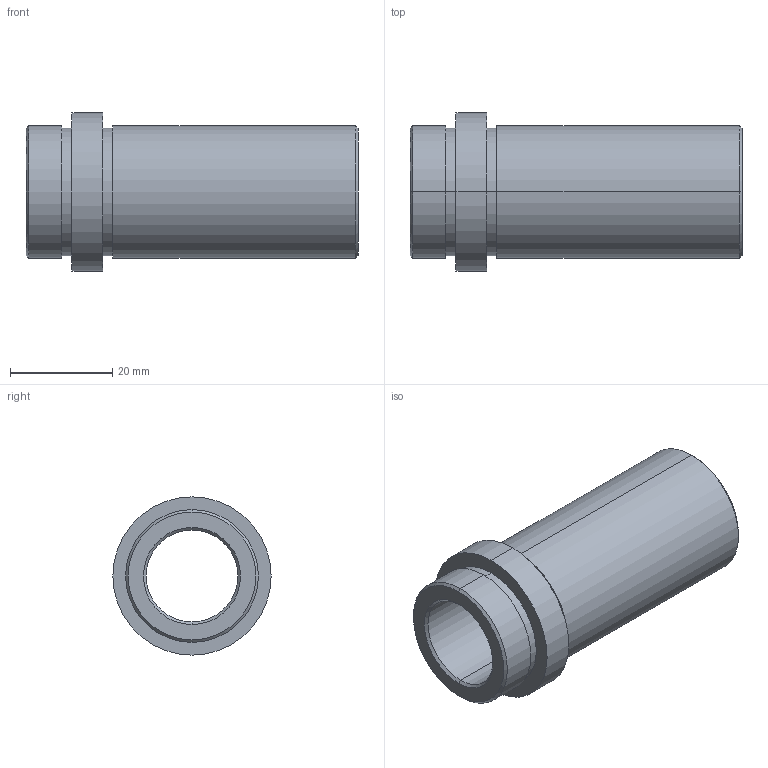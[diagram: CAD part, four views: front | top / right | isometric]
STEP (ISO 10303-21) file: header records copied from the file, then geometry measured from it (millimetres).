
FILE_DESCRIPTION (( 'STEP AP214' ), '1' );
FILE_NAME ('D21_18x56.step', '2011-12-28T19:44:20', ( 'Dell' ), ( '' ), 'SwSTEP 2.0', 'SolidWorks 2010', '' );
FILE_SCHEMA (( 'AUTOMOTIVE_DESIGN' ));
Length unit declared in the file: millimetre
Products named in the file (1): D21_18x56
Bounding box: 65 x 31 x 31 mm (x, y, z)
Volume: 19118.2 mm3; surface area: 10146.5 mm2
Topology: 1 solids, 1 shells, 26 faces, 52 edges, 32 vertices
Faces by surface type: cylinder 12, cone 8, plane 6
Entity records: 722 total; most frequent: DIRECTION 138, CARTESIAN_POINT 111, ORIENTED_EDGE 104, AXIS2_PLACEMENT_3D 59, EDGE_CURVE 52, VERTEX_POINT 32, EDGE_LOOP 32, CIRCLE 32
